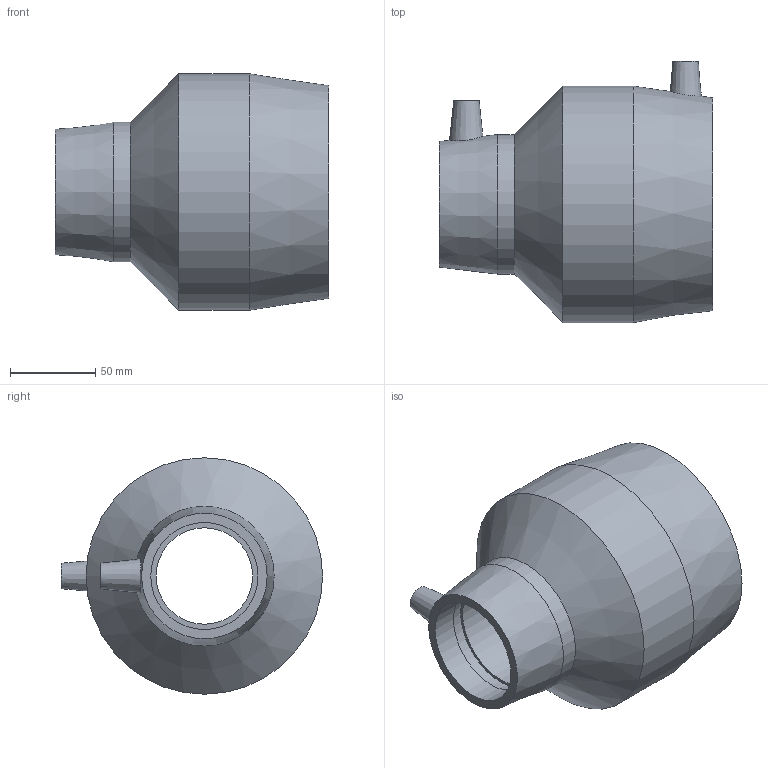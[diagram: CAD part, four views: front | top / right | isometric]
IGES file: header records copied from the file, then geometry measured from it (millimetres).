
Global section: file name: 491104110063.ipt; native system: Autodesk Inventor 2015; preprocessor: unknown; author: KIM; date: 20171106.093736; units: millimetre
Bounding box: 161 x 153.5 x 139 mm (x, y, z)
Volume: 703728.6 mm3; surface area: 120131.8 mm2
Topology: 1 solids, 1 shells, 31 faces, 72 edges, 51 vertices
Faces by surface type: plane 12, revolution 10, cone 5, cylinder 4
Full cylindrical faces by diameter (mm): 4 x2, 82 x1, 139 x1
